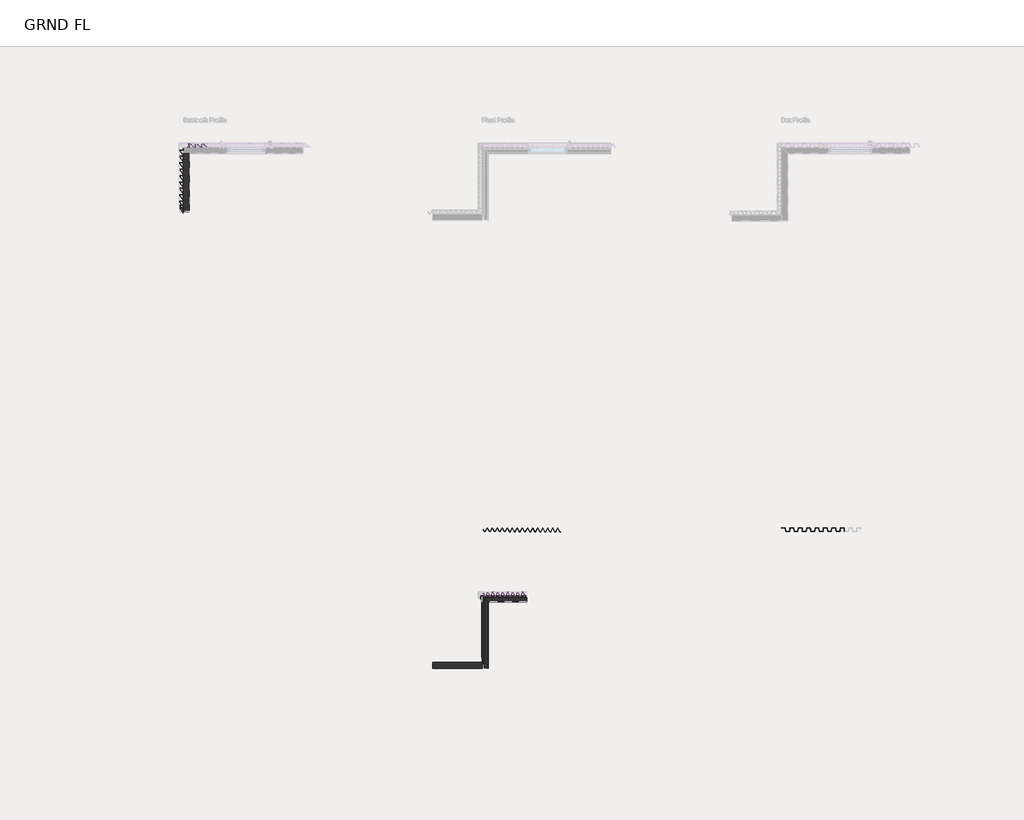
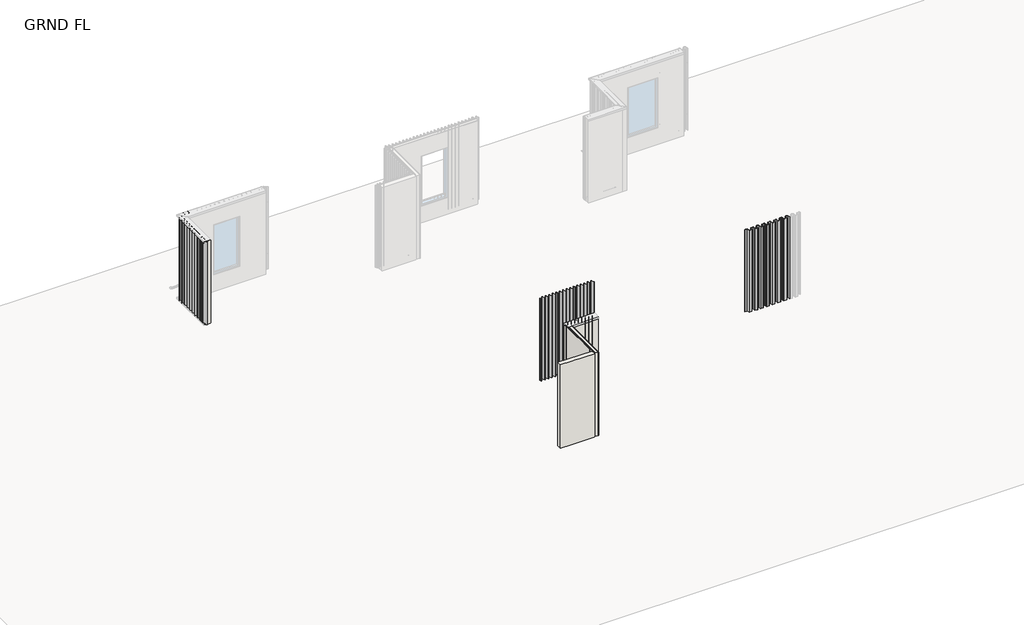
# One storey, part 1 of 13: 72 members, 6 walls.
"""IFC4 building model written with IfcOpenShell, lengths in millimetres."""

from ifc_helpers import new_model, si_unit, frame, origin, place, context, project, spatial, polyline, ellipse_curve, outline, extrude, faceted_brep, transform, mapped, element, save
from ifc_brep_helpers import plane_surface, cylinder_surface, revolved_surface, advanced_brep
from components import rectangular_mullion_1c1d068f, rectangular_mullion_76378f7f, rectangular_mullion_6d4f5b42, rectangular_mullion_4509f283, rectangular_mullion_c7de9142, rectangular_mullion_6f976a3b, rectangular_mullion_a97d78b0, rectangular_mullion_585a1eef, rectangular_mullion_b048368e, rectangular_mullion_7e84aa45, rectangular_mullion_fe7e4276, rectangular_mullion_1fecb4d4, rectangular_mullion_b818b3c7, rectangular_mullion_f458c6f7, rectangular_mullion_71329b21, rectangular_mullion_6e79b691, rectangular_mullion_508b6aa7

model = new_model("IFC4")

# Units and contexts
model_context = context("Model", 3, world=origin())
ifc_project = project(units=[si_unit("LENGTHUNIT", "METRE", prefix="MILLI")], contexts=[model_context])

# Site, building, storey
site = spatial("IfcSite", under=ifc_project)
building = spatial("IfcBuilding", under=site)
storey = spatial("IfcBuildingStorey", under=building, Name="GRND FL", Elevation=35277.5920148)

# Members
placement = place(None, origin())
rectangular_mullion_shape = rectangular_mullion_1c1d068f(model_context)
element("IfcMember", 1, ObjectType="Rectangular Mullion : CD_NINELINE_Sawtooth Start Intermediate", at=placement, inside=storey, context=model_context, shape_type="MappedRepresentation", body=[
    mapped(rectangular_mullion_shape, transform((47493.6836337, -5064.1146042, 35277.5920148), x_axis=(0.0, 1.0, 0.0), y_axis=(1.0, 0.0, 0.0), z_axis=(0.0, 0.0, -1.0))),
])
element("IfcMember", 2, ObjectType="Rectangular Mullion : CD_NINELINE_Sawtooth Start Intermediate", at=placement, inside=storey, context=model_context, shape_type="MappedRepresentation", body=[
    mapped(rectangular_mullion_shape, transform((47493.6836337, -4914.1146042, 35277.5920148), x_axis=(0.0, 1.0, 0.0), y_axis=(1.0, 0.0, 0.0), z_axis=(0.0, 0.0, -1.0))),
])
element("IfcMember", 3, ObjectType="Rectangular Mullion : CD_NINELINE_Sawtooth Start Intermediate", at=placement, inside=storey, context=model_context, shape_type="MappedRepresentation", body=[
    mapped(rectangular_mullion_shape, transform((47493.6836337, -4764.1146042, 35277.5920148), x_axis=(0.0, 1.0, 0.0), y_axis=(1.0, 0.0, 0.0), z_axis=(0.0, 0.0, -1.0))),
])
element("IfcMember", 4, ObjectType="Rectangular Mullion : CD_NINELINE_Sawtooth Start Intermediate", at=placement, inside=storey, context=model_context, shape_type="MappedRepresentation", body=[
    mapped(rectangular_mullion_shape, transform((47493.6836337, -4614.1146042, 35277.5920148), x_axis=(0.0, 1.0, 0.0), y_axis=(1.0, 0.0, 0.0), z_axis=(0.0, 0.0, -1.0))),
])
element("IfcMember", 5, ObjectType="Rectangular Mullion : CD_NINELINE_Sawtooth Start Intermediate", at=placement, inside=storey, context=model_context, shape_type="MappedRepresentation", body=[
    mapped(rectangular_mullion_shape, transform((47493.6836337, -4464.1146042, 35277.5920148), x_axis=(0.0, 1.0, 0.0), y_axis=(1.0, 0.0, 0.0), z_axis=(0.0, 0.0, -1.0))),
])
element("IfcMember", 6, ObjectType="Rectangular Mullion : CD_NINELINE_Sawtooth Start Intermediate", at=placement, inside=storey, context=model_context, shape_type="MappedRepresentation", body=[
    mapped(rectangular_mullion_shape, transform((47493.6836337, -4314.1146042, 35277.5920148), x_axis=(0.0, 1.0, 0.0), y_axis=(1.0, 0.0, 0.0), z_axis=(0.0, 0.0, -1.0))),
])
element("IfcMember", 7, ObjectType="Rectangular Mullion : CD_NINELINE_Sawtooth Start Intermediate", at=placement, inside=storey, context=model_context, shape_type="MappedRepresentation", body=[
    mapped(rectangular_mullion_shape, transform((47493.6836337, -4164.1146042, 35277.5920148), x_axis=(0.0, 1.0, 0.0), y_axis=(1.0, 0.0, 0.0), z_axis=(0.0, 0.0, -1.0))),
])
element("IfcMember", 8, ObjectType="Rectangular Mullion : CD_NINELINE_Sawtooth Start Intermediate", at=placement, inside=storey, context=model_context, shape_type="MappedRepresentation", body=[
    mapped(rectangular_mullion_shape, transform((47493.6836337, -4014.1146042, 35277.5920148), x_axis=(0.0, 1.0, 0.0), y_axis=(1.0, 0.0, 0.0), z_axis=(0.0, 0.0, -1.0))),
])
element("IfcMember", 9, ObjectType="Rectangular Mullion : CD_NINELINE_Sawtooth Start Intermediate", at=placement, inside=storey, context=model_context, shape_type="MappedRepresentation", body=[
    mapped(rectangular_mullion_shape, transform((47493.6836337, -3864.1146042, 35277.5920148), x_axis=(0.0, 1.0, 0.0), y_axis=(1.0, 0.0, 0.0), z_axis=(0.0, 0.0, -1.0))),
])
element("IfcMember", 10, ObjectType="Rectangular Mullion : CD_NINELINE_Sawtooth Start Intermediate", at=placement, inside=storey, context=model_context, shape_type="MappedRepresentation", body=[
    mapped(rectangular_mullion_shape, transform((47493.6836337, -5214.1146042, 35277.5920148), x_axis=(0.0, 1.0, 0.0), y_axis=(1.0, 0.0, 0.0), z_axis=(0.0, 0.0, -1.0))),
])
rectangular_mullion_2_shape = rectangular_mullion_76378f7f(model_context)
element("IfcMember", 11, ObjectType="Rectangular Mullion : CD_NINELINE_Sawtooth End", at=placement, inside=storey, context=model_context, shape_type="MappedRepresentation", body=[
    mapped(rectangular_mullion_2_shape, transform((47493.6836337, -5245.6146039, 38277.5920148), x_axis=(0.0, -1.0, 0.0), y_axis=(1.0, 0.0, 0.0), z_axis=(0.0, 0.0, 1.0))),
])
rectangular_mullion_3_shape = rectangular_mullion_6d4f5b42(model_context)
element("IfcMember", 12, ObjectType="Rectangular Mullion : CD_NINELINE_Pleat Start Intermediate", at=placement, inside=storey, context=model_context, shape_type="MappedRepresentation", body=[
    mapped(rectangular_mullion_3_shape, transform((54664.4845151, -14245.6146039, 35330.5920148), x_axis=(1.0, 0.0, 0.0), y_axis=(0.0, -1.0, 0.0), z_axis=(0.0, 0.0, -1.0))),
])
element("IfcMember", 13, ObjectType="Rectangular Mullion : CD_NINELINE_Pleat Start Intermediate", at=placement, inside=storey, context=model_context, shape_type="MappedRepresentation", body=[
    mapped(rectangular_mullion_3_shape, transform((54782.4845151, -14245.6146039, 35330.5920148), x_axis=(1.0, 0.0, 0.0), y_axis=(0.0, -1.0, 0.0), z_axis=(0.0, 0.0, -1.0))),
])
element("IfcMember", 14, ObjectType="Rectangular Mullion : CD_NINELINE_Pleat Start Intermediate", at=placement, inside=storey, context=model_context, shape_type="MappedRepresentation", body=[
    mapped(rectangular_mullion_3_shape, transform((54900.4845151, -14245.6146039, 35330.5920148), x_axis=(1.0, 0.0, 0.0), y_axis=(0.0, -1.0, 0.0), z_axis=(0.0, 0.0, -1.0))),
])
element("IfcMember", 15, ObjectType="Rectangular Mullion : CD_NINELINE_Pleat Start Intermediate", at=placement, inside=storey, context=model_context, shape_type="MappedRepresentation", body=[
    mapped(rectangular_mullion_3_shape, transform((55018.4845151, -14245.6146039, 35330.5920148), x_axis=(1.0, 0.0, 0.0), y_axis=(0.0, -1.0, 0.0), z_axis=(0.0, 0.0, -1.0))),
])
element("IfcMember", 16, ObjectType="Rectangular Mullion : CD_NINELINE_Pleat Start Intermediate", at=placement, inside=storey, context=model_context, shape_type="MappedRepresentation", body=[
    mapped(rectangular_mullion_3_shape, transform((55136.4845151, -14245.6146039, 35330.5920148), x_axis=(1.0, 0.0, 0.0), y_axis=(0.0, -1.0, 0.0), z_axis=(0.0, 0.0, -1.0))),
])
element("IfcMember", 17, ObjectType="Rectangular Mullion : CD_NINELINE_Pleat Start Intermediate", at=placement, inside=storey, context=model_context, shape_type="MappedRepresentation", body=[
    mapped(rectangular_mullion_3_shape, transform((55254.4845151, -14245.6146039, 35330.5920148), x_axis=(1.0, 0.0, 0.0), y_axis=(0.0, -1.0, 0.0), z_axis=(0.0, 0.0, -1.0))),
])
element("IfcMember", 18, ObjectType="Rectangular Mullion : CD_NINELINE_Pleat Start Intermediate", at=placement, inside=storey, context=model_context, shape_type="MappedRepresentation", body=[
    mapped(rectangular_mullion_3_shape, transform((55372.4845151, -14245.6146039, 35330.5920148), x_axis=(1.0, 0.0, 0.0), y_axis=(0.0, -1.0, 0.0), z_axis=(0.0, 0.0, -1.0))),
])
rectangular_mullion_4_shape = rectangular_mullion_4509f283(model_context)
element("IfcMember", 19, ObjectType="Rectangular Mullion : CD_NINELINE_Pleat Start", at=placement, inside=storey, context=model_context, shape_type="MappedRepresentation", body=[
    mapped(rectangular_mullion_4_shape, transform((54518.8962254, -14245.6146039, 35877.5920148), x_axis=(-1.0, 0.0, 0.0), y_axis=(0.0, -1.0, 0.0), z_axis=(0.0, 0.0, 1.0))),
])
rectangular_mullion_5_shape = rectangular_mullion_c7de9142(model_context)
element("IfcMember", 20, ObjectType="Rectangular Mullion : CD_NINELINE_Sawtooth Start Intermediate", at=placement, inside=storey, context=model_context, shape_type="MappedRepresentation", body=[
    mapped(rectangular_mullion_5_shape, transform((47983.9599021, -3745.6146039, 35877.5920148), x_axis=(-1.0, 0.0, 0.0), y_axis=(0.0, 1.0, 0.0), z_axis=(0.0, 0.0, -1.0))),
])
element("IfcMember", 21, ObjectType="Rectangular Mullion : CD_NINELINE_Sawtooth Start Intermediate", at=placement, inside=storey, context=model_context, shape_type="MappedRepresentation", body=[
    mapped(rectangular_mullion_5_shape, transform((47833.9599021, -3745.6146039, 35877.5920148), x_axis=(-1.0, 0.0, 0.0), y_axis=(0.0, 1.0, 0.0), z_axis=(0.0, 0.0, -1.0))),
])
element("IfcMember", 22, ObjectType="Rectangular Mullion : CD_NINELINE_Sawtooth Start Intermediate", at=placement, inside=storey, context=model_context, shape_type="MappedRepresentation", body=[
    mapped(rectangular_mullion_5_shape, transform((47683.9599021, -3745.6146039, 35877.5920148), x_axis=(-1.0, 0.0, 0.0), y_axis=(0.0, 1.0, 0.0), z_axis=(0.0, 0.0, -1.0))),
])
rectangular_mullion_6_shape = rectangular_mullion_6f976a3b(model_context)
element("IfcMember", 23, ObjectType="Rectangular Mullion : CD_NINELINE_Sawtooth Start Intermediate", at=placement, inside=storey, context=model_context, shape_type="MappedRepresentation", body=[
    mapped(rectangular_mullion_6_shape, transform((47983.9599021, -3745.6146039, 35330.5920148), x_axis=(-1.0, 0.0, 0.0), y_axis=(0.0, 1.0, 0.0), z_axis=(0.0, 0.0, -1.0))),
])
element("IfcMember", 24, ObjectType="Rectangular Mullion : CD_NINELINE_Sawtooth Start Intermediate", at=placement, inside=storey, context=model_context, shape_type="MappedRepresentation", body=[
    mapped(rectangular_mullion_6_shape, transform((47833.9599021, -3745.6146039, 35330.5920148), x_axis=(-1.0, 0.0, 0.0), y_axis=(0.0, 1.0, 0.0), z_axis=(0.0, 0.0, -1.0))),
])
element("IfcMember", 25, ObjectType="Rectangular Mullion : CD_NINELINE_Sawtooth Start Intermediate", at=placement, inside=storey, context=model_context, shape_type="MappedRepresentation", body=[
    mapped(rectangular_mullion_6_shape, transform((47683.9599021, -3745.6146039, 35330.5920148), x_axis=(-1.0, 0.0, 0.0), y_axis=(0.0, 1.0, 0.0), z_axis=(0.0, 0.0, -1.0))),
])
rectangular_mullion_7_shape = rectangular_mullion_a97d78b0(model_context)
element("IfcMember", 26, ObjectType="Rectangular Mullion : CD_NINELINE_Sawtooth Start Intermediate", at=placement, inside=storey, context=model_context, shape_type="MappedRepresentation", body=[
    mapped(rectangular_mullion_7_shape, transform((47983.9599021, -3745.6146039, 37729.5920148), x_axis=(-1.0, 0.0, 0.0), y_axis=(0.0, 1.0, 0.0), z_axis=(0.0, 0.0, -1.0))),
])
element("IfcMember", 27, ObjectType="Rectangular Mullion : CD_NINELINE_Sawtooth Start Intermediate", at=placement, inside=storey, context=model_context, shape_type="MappedRepresentation", body=[
    mapped(rectangular_mullion_7_shape, transform((47833.9599021, -3745.6146039, 37729.5920148), x_axis=(-1.0, 0.0, 0.0), y_axis=(0.0, 1.0, 0.0), z_axis=(0.0, 0.0, -1.0))),
])
element("IfcMember", 28, ObjectType="Rectangular Mullion : CD_NINELINE_Sawtooth Start Intermediate", at=placement, inside=storey, context=model_context, shape_type="MappedRepresentation", body=[
    mapped(rectangular_mullion_7_shape, transform((47683.9599021, -3745.6146039, 37729.5920148), x_axis=(-1.0, 0.0, 0.0), y_axis=(0.0, 1.0, 0.0), z_axis=(0.0, 0.0, -1.0))),
])
rectangular_mullion_8_shape = rectangular_mullion_585a1eef(model_context)
element("IfcMember", 29, ObjectType="Rectangular Mullion : CD_NINELINE_Pleat Start Intermediate", at=placement, inside=storey, context=model_context, shape_type="MappedRepresentation", body=[
    mapped(rectangular_mullion_8_shape, transform((54535.9038687, -12745.6146039, 35330.5920148), x_axis=(1.0, 0.0, 0.0), y_axis=(0.0, -1.0, 0.0), z_axis=(0.0, 0.0, -1.0))),
])
element("IfcMember", 30, ObjectType="Rectangular Mullion : CD_NINELINE_Pleat Start Intermediate", at=placement, inside=storey, context=model_context, shape_type="MappedRepresentation", body=[
    mapped(rectangular_mullion_8_shape, transform((54653.9038687, -12745.6146039, 35330.5920148), x_axis=(1.0, 0.0, 0.0), y_axis=(0.0, -1.0, 0.0), z_axis=(0.0, 0.0, -1.0))),
])
element("IfcMember", 31, ObjectType="Rectangular Mullion : CD_NINELINE_Pleat Start Intermediate", at=placement, inside=storey, context=model_context, shape_type="MappedRepresentation", body=[
    mapped(rectangular_mullion_8_shape, transform((54771.9038687, -12745.6146039, 35330.5920148), x_axis=(1.0, 0.0, 0.0), y_axis=(0.0, -1.0, 0.0), z_axis=(0.0, 0.0, -1.0))),
])
element("IfcMember", 32, ObjectType="Rectangular Mullion : CD_NINELINE_Pleat Start Intermediate", at=placement, inside=storey, context=model_context, shape_type="MappedRepresentation", body=[
    mapped(rectangular_mullion_8_shape, transform((54889.9038687, -12745.6146039, 35330.5920148), x_axis=(1.0, 0.0, 0.0), y_axis=(0.0, -1.0, 0.0), z_axis=(0.0, 0.0, -1.0))),
])
element("IfcMember", 33, ObjectType="Rectangular Mullion : CD_NINELINE_Pleat Start Intermediate", at=placement, inside=storey, context=model_context, shape_type="MappedRepresentation", body=[
    mapped(rectangular_mullion_8_shape, transform((55125.9038687, -12747.1146039, 35330.5920148), x_axis=(1.0, 0.0, 0.0), y_axis=(0.0, -1.0, 0.0), z_axis=(0.0, 0.0, -1.0))),
])
element("IfcMember", 34, ObjectType="Rectangular Mullion : CD_NINELINE_Pleat Start Intermediate", at=placement, inside=storey, context=model_context, shape_type="MappedRepresentation", body=[
    mapped(rectangular_mullion_8_shape, transform((55243.9038687, -12747.1146039, 35330.5920148), x_axis=(1.0, 0.0, 0.0), y_axis=(0.0, -1.0, 0.0), z_axis=(0.0, 0.0, -1.0))),
])
element("IfcMember", 35, ObjectType="Rectangular Mullion : CD_NINELINE_Pleat Start Intermediate", at=placement, inside=storey, context=model_context, shape_type="MappedRepresentation", body=[
    mapped(rectangular_mullion_8_shape, transform((55361.9038687, -12747.1146039, 35330.5920148), x_axis=(1.0, 0.0, 0.0), y_axis=(0.0, -1.0, 0.0), z_axis=(0.0, 0.0, -1.0))),
])
element("IfcMember", 36, ObjectType="Rectangular Mullion : CD_NINELINE_Pleat Start Intermediate", at=placement, inside=storey, context=model_context, shape_type="MappedRepresentation", body=[
    mapped(rectangular_mullion_8_shape, transform((55479.9038687, -12747.1146039, 35330.5920148), x_axis=(1.0, 0.0, 0.0), y_axis=(0.0, -1.0, 0.0), z_axis=(0.0, 0.0, -1.0))),
])
element("IfcMember", 37, ObjectType="Rectangular Mullion : CD_NINELINE_Pleat Start Intermediate", at=placement, inside=storey, context=model_context, shape_type="MappedRepresentation", body=[
    mapped(rectangular_mullion_8_shape, transform((55715.9038687, -12748.5833539, 35330.5920148), x_axis=(1.0, 0.0, 0.0), y_axis=(0.0, -1.0, 0.0), z_axis=(0.0, 0.0, -1.0))),
])
element("IfcMember", 38, ObjectType="Rectangular Mullion : CD_NINELINE_Pleat Start Intermediate", at=placement, inside=storey, context=model_context, shape_type="MappedRepresentation", body=[
    mapped(rectangular_mullion_8_shape, transform((55833.9038687, -12748.5833539, 35330.5920148), x_axis=(1.0, 0.0, 0.0), y_axis=(0.0, -1.0, 0.0), z_axis=(0.0, 0.0, -1.0))),
])
element("IfcMember", 39, ObjectType="Rectangular Mullion : CD_NINELINE_Pleat Start Intermediate", at=placement, inside=storey, context=model_context, shape_type="MappedRepresentation", body=[
    mapped(rectangular_mullion_8_shape, transform((55951.9038687, -12748.5833539, 35330.5920148), x_axis=(1.0, 0.0, 0.0), y_axis=(0.0, -1.0, 0.0), z_axis=(0.0, 0.0, -1.0))),
])
element("IfcMember", 40, ObjectType="Rectangular Mullion : CD_NINELINE_Pleat Start Intermediate", at=placement, inside=storey, context=model_context, shape_type="MappedRepresentation", body=[
    mapped(rectangular_mullion_8_shape, transform((56069.9038687, -12748.5833539, 35330.5920148), x_axis=(1.0, 0.0, 0.0), y_axis=(0.0, -1.0, 0.0), z_axis=(0.0, 0.0, -1.0))),
])
rectangular_mullion_9_shape = rectangular_mullion_b048368e(model_context)
element("IfcMember", 41, ObjectType="Rectangular Mullion : CD_NINELINE_Pleat Start", at=placement, inside=storey, context=model_context, shape_type="MappedRepresentation", body=[
    mapped(rectangular_mullion_9_shape, transform((54508.1857869, -12745.6146039, 38277.5920148), x_axis=(-1.0, 0.0, 0.0), y_axis=(0.0, -1.0, 0.0), z_axis=(0.0, 0.0, 1.0))),
])
element("IfcMember", 42, ObjectType="Rectangular Mullion : CD_NINELINE_Pleat Start", at=placement, inside=storey, context=model_context, shape_type="MappedRepresentation", body=[
    mapped(rectangular_mullion_9_shape, transform((55098.1857869, -12747.1146039, 38277.5920148), x_axis=(-1.0, 0.0, 0.0), y_axis=(0.0, -1.0, 0.0), z_axis=(0.0, 0.0, 1.0))),
])
element("IfcMember", 43, ObjectType="Rectangular Mullion : CD_NINELINE_Pleat Start", at=placement, inside=storey, context=model_context, shape_type="MappedRepresentation", body=[
    mapped(rectangular_mullion_9_shape, transform((55688.1857869, -12748.5833539, 38277.5920148), x_axis=(-1.0, 0.0, 0.0), y_axis=(0.0, -1.0, 0.0), z_axis=(0.0, 0.0, 1.0))),
])
rectangular_mullion_10_shape = rectangular_mullion_7e84aa45(model_context)
element("IfcMember", 44, ObjectType="Rectangular Mullion : CD_NINELINE_Pleat Start Intermediate", at=placement, inside=storey, context=model_context, shape_type="MappedRepresentation", body=[
    mapped(rectangular_mullion_10_shape, transform((54664.4845151, -14245.6146039, 35877.5920148), x_axis=(1.0, 0.0, 0.0), y_axis=(0.0, -1.0, 0.0), z_axis=(0.0, 0.0, -1.0))),
])
element("IfcMember", 45, ObjectType="Rectangular Mullion : CD_NINELINE_Pleat Start Intermediate", at=placement, inside=storey, context=model_context, shape_type="MappedRepresentation", body=[
    mapped(rectangular_mullion_10_shape, transform((54782.4845151, -14245.6146039, 35877.5920148), x_axis=(1.0, 0.0, 0.0), y_axis=(0.0, -1.0, 0.0), z_axis=(0.0, 0.0, -1.0))),
])
element("IfcMember", 46, ObjectType="Rectangular Mullion : CD_NINELINE_Pleat Start Intermediate", at=placement, inside=storey, context=model_context, shape_type="MappedRepresentation", body=[
    mapped(rectangular_mullion_10_shape, transform((54900.4845151, -14245.6146039, 35877.5920148), x_axis=(1.0, 0.0, 0.0), y_axis=(0.0, -1.0, 0.0), z_axis=(0.0, 0.0, -1.0))),
])
element("IfcMember", 47, ObjectType="Rectangular Mullion : CD_NINELINE_Pleat Start Intermediate", at=placement, inside=storey, context=model_context, shape_type="MappedRepresentation", body=[
    mapped(rectangular_mullion_10_shape, transform((55018.4845151, -14245.6146039, 35877.5920148), x_axis=(1.0, 0.0, 0.0), y_axis=(0.0, -1.0, 0.0), z_axis=(0.0, 0.0, -1.0))),
])
element("IfcMember", 48, ObjectType="Rectangular Mullion : CD_NINELINE_Pleat Start Intermediate", at=placement, inside=storey, context=model_context, shape_type="MappedRepresentation", body=[
    mapped(rectangular_mullion_10_shape, transform((55136.4845151, -14245.6146039, 35877.5920148), x_axis=(1.0, 0.0, 0.0), y_axis=(0.0, -1.0, 0.0), z_axis=(0.0, 0.0, -1.0))),
])
element("IfcMember", 49, ObjectType="Rectangular Mullion : CD_NINELINE_Pleat Start Intermediate", at=placement, inside=storey, context=model_context, shape_type="MappedRepresentation", body=[
    mapped(rectangular_mullion_10_shape, transform((55254.4845151, -14245.6146039, 35877.5920148), x_axis=(1.0, 0.0, 0.0), y_axis=(0.0, -1.0, 0.0), z_axis=(0.0, 0.0, -1.0))),
])
element("IfcMember", 50, ObjectType="Rectangular Mullion : CD_NINELINE_Pleat Start Intermediate", at=placement, inside=storey, context=model_context, shape_type="MappedRepresentation", body=[
    mapped(rectangular_mullion_10_shape, transform((55372.4845151, -14245.6146039, 35877.5920148), x_axis=(1.0, 0.0, 0.0), y_axis=(0.0, -1.0, 0.0), z_axis=(0.0, 0.0, -1.0))),
])
rectangular_mullion_11_shape = rectangular_mullion_fe7e4276(model_context)
element("IfcMember", 51, ObjectType="Rectangular Mullion : CD_NINELINE_Pleat Start Intermediate", at=placement, inside=storey, context=model_context, shape_type="MappedRepresentation", body=[
    mapped(rectangular_mullion_11_shape, transform((54664.4845151, -14245.6146039, 37690.5295148), x_axis=(1.0, 0.0, 0.0), y_axis=(0.0, -1.0, 0.0), z_axis=(0.0, 0.0, -1.0))),
])
element("IfcMember", 52, ObjectType="Rectangular Mullion : CD_NINELINE_Pleat Start Intermediate", at=placement, inside=storey, context=model_context, shape_type="MappedRepresentation", body=[
    mapped(rectangular_mullion_11_shape, transform((54782.4845151, -14245.6146039, 37690.5295148), x_axis=(1.0, 0.0, 0.0), y_axis=(0.0, -1.0, 0.0), z_axis=(0.0, 0.0, -1.0))),
])
element("IfcMember", 53, ObjectType="Rectangular Mullion : CD_NINELINE_Pleat Start Intermediate", at=placement, inside=storey, context=model_context, shape_type="MappedRepresentation", body=[
    mapped(rectangular_mullion_11_shape, transform((54900.4845151, -14245.6146039, 37690.5295148), x_axis=(1.0, 0.0, 0.0), y_axis=(0.0, -1.0, 0.0), z_axis=(0.0, 0.0, -1.0))),
])
element("IfcMember", 54, ObjectType="Rectangular Mullion : CD_NINELINE_Pleat Start Intermediate", at=placement, inside=storey, context=model_context, shape_type="MappedRepresentation", body=[
    mapped(rectangular_mullion_11_shape, transform((55018.4845151, -14245.6146039, 37690.5295148), x_axis=(1.0, 0.0, 0.0), y_axis=(0.0, -1.0, 0.0), z_axis=(0.0, 0.0, -1.0))),
])
element("IfcMember", 55, ObjectType="Rectangular Mullion : CD_NINELINE_Pleat Start Intermediate", at=placement, inside=storey, context=model_context, shape_type="MappedRepresentation", body=[
    mapped(rectangular_mullion_11_shape, transform((55136.4845151, -14245.6146039, 37690.5295148), x_axis=(1.0, 0.0, 0.0), y_axis=(0.0, -1.0, 0.0), z_axis=(0.0, 0.0, -1.0))),
])
element("IfcMember", 56, ObjectType="Rectangular Mullion : CD_NINELINE_Pleat Start Intermediate", at=placement, inside=storey, context=model_context, shape_type="MappedRepresentation", body=[
    mapped(rectangular_mullion_11_shape, transform((55254.4845151, -14245.6146039, 37690.5295148), x_axis=(1.0, 0.0, 0.0), y_axis=(0.0, -1.0, 0.0), z_axis=(0.0, 0.0, -1.0))),
])
element("IfcMember", 57, ObjectType="Rectangular Mullion : CD_NINELINE_Pleat Start Intermediate", at=placement, inside=storey, context=model_context, shape_type="MappedRepresentation", body=[
    mapped(rectangular_mullion_11_shape, transform((55372.4845151, -14245.6146039, 37690.5295148), x_axis=(1.0, 0.0, 0.0), y_axis=(0.0, -1.0, 0.0), z_axis=(0.0, 0.0, -1.0))),
])
rectangular_mullion_12_shape = rectangular_mullion_1fecb4d4(model_context)
element("IfcMember", 58, ObjectType="Rectangular Mullion : CD_NINELINE_Pleat Start", at=placement, inside=storey, context=model_context, shape_type="MappedRepresentation", body=[
    mapped(rectangular_mullion_12_shape, transform((54518.8962254, -14245.6146039, 38272.5920148), x_axis=(-1.0, 0.0, 0.0), y_axis=(0.0, -1.0, 0.0), z_axis=(0.0, 0.0, 1.0))),
])
rectangular_mullion_13_shape = rectangular_mullion_b818b3c7(model_context)
element("IfcMember", 59, ObjectType="Rectangular Mullion : CD_NINELINE_Pleat Start", at=placement, inside=storey, context=model_context, shape_type="MappedRepresentation", body=[
    mapped(rectangular_mullion_13_shape, transform((54518.8962254, -14245.6146039, 37690.5295148), x_axis=(-1.0, 0.0, 0.0), y_axis=(0.0, -1.0, 0.0), z_axis=(0.0, 0.0, 1.0))),
])
rectangular_mullion_14_shape = rectangular_mullion_f458c6f7(model_context)
element("IfcMember", 60, ObjectType="Rectangular Mullion : CD_NINELINE_Box Intermediate", at=placement, inside=storey, context=model_context, shape_type="MappedRepresentation", body=[
    mapped(rectangular_mullion_14_shape, transform((61596.140799, -12745.6146039, 35330.5920148), x_axis=(1.0, 0.0, 0.0), y_axis=(0.0, -1.0, 0.0), z_axis=(0.0, 0.0, -1.0))),
])
element("IfcMember", 61, ObjectType="Rectangular Mullion : CD_NINELINE_Box Intermediate", at=placement, inside=storey, context=model_context, shape_type="MappedRepresentation", body=[
    mapped(rectangular_mullion_14_shape, transform((61790.140799, -12745.6146039, 35330.5920148), x_axis=(1.0, 0.0, 0.0), y_axis=(0.0, -1.0, 0.0), z_axis=(0.0, 0.0, -1.0))),
])
element("IfcMember", 62, ObjectType="Rectangular Mullion : CD_NINELINE_Box Intermediate", at=placement, inside=storey, context=model_context, shape_type="MappedRepresentation", body=[
    mapped(rectangular_mullion_14_shape, transform((62185.105605, -12745.6146039, 35330.5920148), x_axis=(1.0, 0.0, 0.0), y_axis=(0.0, -1.0, 0.0), z_axis=(0.0, 0.0, -1.0))),
])
element("IfcMember", 63, ObjectType="Rectangular Mullion : CD_NINELINE_Box Intermediate", at=placement, inside=storey, context=model_context, shape_type="MappedRepresentation", body=[
    mapped(rectangular_mullion_14_shape, transform((62379.105605, -12745.6146039, 35330.5920148), x_axis=(1.0, 0.0, 0.0), y_axis=(0.0, -1.0, 0.0), z_axis=(0.0, 0.0, -1.0))),
])
element("IfcMember", 64, ObjectType="Rectangular Mullion : CD_NINELINE_Box Intermediate", at=placement, inside=storey, context=model_context, shape_type="MappedRepresentation", body=[
    mapped(rectangular_mullion_14_shape, transform((62774.105605, -12745.6146039, 35330.5920148), x_axis=(1.0, 0.0, 0.0), y_axis=(0.0, -1.0, 0.0), z_axis=(0.0, 0.0, -1.0))),
])
rectangular_mullion_15_shape = rectangular_mullion_71329b21(model_context)
element("IfcMember", 65, ObjectType="Rectangular Mullion : CD_NINELINE_Box Start", at=placement, inside=storey, context=model_context, shape_type="MappedRepresentation", body=[
    mapped(rectangular_mullion_15_shape, transform((61493.7188276, -12745.6146039, 38272.5920148), x_axis=(-1.0, 0.0, 0.0), y_axis=(0.0, -1.0, 0.0), z_axis=(0.0, 0.0, 1.0))),
])
element("IfcMember", 66, ObjectType="Rectangular Mullion : CD_NINELINE_Box Start", at=placement, inside=storey, context=model_context, shape_type="MappedRepresentation", body=[
    mapped(rectangular_mullion_15_shape, transform((62082.6836337, -12745.6146039, 38272.5920148), x_axis=(-1.0, 0.0, 0.0), y_axis=(0.0, -1.0, 0.0), z_axis=(0.0, 0.0, 1.0))),
])
element("IfcMember", 67, ObjectType="Rectangular Mullion : CD_NINELINE_Box Start", at=placement, inside=storey, context=model_context, shape_type="MappedRepresentation", body=[
    mapped(rectangular_mullion_15_shape, transform((62671.6836337, -12745.6146039, 38272.5920148), x_axis=(-1.0, 0.0, 0.0), y_axis=(0.0, -1.0, 0.0), z_axis=(0.0, 0.0, 1.0))),
])
rectangular_mullion_16_shape = rectangular_mullion_6e79b691(model_context)
element("IfcMember", 68, ObjectType="Rectangular Mullion : CD_NINELINE_Box End", at=placement, inside=storey, context=model_context, shape_type="MappedRepresentation", body=[
    mapped(rectangular_mullion_16_shape, transform((62175.2188276, -12745.6146039, 35330.5920148), x_axis=(1.0, 0.0, 0.0), y_axis=(0.0, -1.0, 0.0), z_axis=(0.0, 0.0, -1.0))),
])
element("IfcMember", 69, ObjectType="Rectangular Mullion : CD_NINELINE_Box End", at=placement, inside=storey, context=model_context, shape_type="MappedRepresentation", body=[
    mapped(rectangular_mullion_16_shape, transform((62764.1836337, -12745.6146039, 35330.5920148), x_axis=(1.0, 0.0, 0.0), y_axis=(0.0, -1.0, 0.0), z_axis=(0.0, 0.0, -1.0))),
])
rectangular_mullion_17_shape = rectangular_mullion_508b6aa7(model_context)
element("IfcMember", 70, ObjectType="Rectangular Mullion : CD_NINELINE_Pleat End", at=placement, inside=storey, context=model_context, shape_type="MappedRepresentation", body=[
    mapped(rectangular_mullion_17_shape, transform((55147.1857869, -12745.6146039, 35330.5920148), x_axis=(1.0, 0.0, 0.0), y_axis=(0.0, -1.0, 0.0), z_axis=(0.0, 0.0, -1.0))),
])
element("IfcMember", 71, ObjectType="Rectangular Mullion : CD_NINELINE_Pleat End", at=placement, inside=storey, context=model_context, shape_type="MappedRepresentation", body=[
    mapped(rectangular_mullion_17_shape, transform((55737.1857869, -12747.1146039, 35330.5920148), x_axis=(1.0, 0.0, 0.0), y_axis=(0.0, -1.0, 0.0), z_axis=(0.0, 0.0, -1.0))),
])
element("IfcMember", 72, ObjectType="Rectangular Mullion : CD_NINELINE_Pleat End", at=placement, inside=storey, context=model_context, shape_type="MappedRepresentation", body=[
    mapped(rectangular_mullion_17_shape, transform((56327.1857869, -12748.5833539, 35330.5920148), x_axis=(1.0, 0.0, 0.0), y_axis=(0.0, -1.0, 0.0), z_axis=(0.0, 0.0, -1.0))),
])

# Walls
element("IfcWall", 73, ObjectType="EXT METAL SF- Top Hat 35, Steel Frame 90, Plasterboard 13", at=placement, inside=storey, context=model_context, shape_type="Brep", body=[
    faceted_brep([(47493.6836337, -3887.6146039, 35277.5920148), (47493.6836337, -5245.6146039, 35277.5920148), (47493.6836337, -5245.6146039, 35328.1811873), (47493.6836337, -3887.6146039, 35328.1811873), (47493.6836337, -5245.6146039, 38277.5920148), (47493.6836337, -3887.6146039, 38277.5920148), (47493.6836337, -3887.6146039, 35407.5920148), (47493.6836337, -5245.6146039, 35407.5920148), (47635.6836337, -5245.6146039, 35277.5920148), (47635.6836337, -3887.6146039, 35277.5920148), (47635.6836337, -3887.6146039, 38277.5920148), (47635.6836337, -5245.6146039, 38277.5920148), (47630.8871105, -5245.6146039, 38277.5920148), (47494.6836337, -5245.6146039, 35407.5920148), (47494.6836337, -5245.6146039, 35328.1986423), (47630.8871105, -3887.6146039, 38277.5920148), (47494.6836337, -3887.6146039, 35328.1986423), (47494.6836337, -3887.6146039, 35407.5920148)], [[[0, 1, 2, 3]], [[4, 5, 6, 7]], [[8, 9, 10, 11]], [[1, 0, 9, 8]], [[8, 11, 12, 4, 7, 13, 14, 2, 1]], [[5, 4, 12, 11, 10, 15]], [[10, 9, 0, 3, 16, 17, 6, 5, 15]], [[17, 13, 7, 6]], [[13, 17, 16, 14]], [[14, 16, 3, 2]]]),
])
element("IfcWall", 74, ObjectType="EXT METAL SF- Top Hat 35, Steel Frame 90, Plasterboard 13", at=placement, inside=storey, context=model_context, shape_type="SolidModel", body=[
    extrude(outline(polyline([(54530.6836337, -14282.6146039), (54528.6836337, -14280.6146039), (55529.6836337, -14280.6146039), (55529.6836337, -14282.6146039), (54530.6836337, -14282.6146039)])), frame((0.0, 0.0, 35277.5920148), z_axis=(0.0, 0.0, 1.0), x_axis=(1.0, 0.0, 0.0)), (0.0, 0.0, 1.0), 3000.0),
    faceted_brep([(55529.6836337, -14387.6146039, 35277.5920148), (54635.6836337, -14387.6146039, 35277.5920148), (54622.6836337, -14374.6146039, 35277.5920148), (55529.6836337, -14374.6146039, 35277.5920148), (55529.6836337, -14387.6146039, 38277.5920148), (55529.6836337, -14374.6146039, 38277.5920148), (55529.6836337, -14382.8180808, 38277.5920148), (54635.6836337, -14387.6146039, 38277.5920148), (54622.6836337, -14374.6146039, 38277.5920148), (54630.8871105, -14382.8180808, 38277.5920148)], [[[0, 1, 2, 3]], [[4, 0, 3, 5, 6]], [[7, 4, 6, 5, 8, 9]], [[1, 7, 9, 8, 2]], [[3, 2, 8, 5]], [[1, 0, 4, 7]]]),
    extrude(outline(polyline([(54622.6836337, -14374.6146039), (54530.6836337, -14282.6146039), (55529.6836337, -14282.6146039), (55529.6836337, -14374.6146039), (54622.6836337, -14374.6146039)])), frame((0.0, 0.0, 35277.5920148), z_axis=(0.0, 0.0, 1.0), x_axis=(1.0, 0.0, 0.0)), (0.0, 0.0, 1.0), 3000.0),
    faceted_brep([(54528.6836337, -14280.6146039, 35277.5920148), (55529.6836337, -14280.6146039, 35277.5920148), (55529.6836337, -14280.6146039, 38277.5920148), (54528.6836337, -14280.6146039, 38277.5920148), (55529.6836337, -14245.6146039, 35277.5920148), (54493.6836337, -14245.6146039, 35277.5920148), (54493.6836337, -14245.6146039, 35328.1811873), (55529.6836337, -14245.6146039, 35328.1811873), (55529.6836337, -14246.6146039, 35328.1986423), (55529.6836337, -14246.6146039, 35407.5920148), (55529.6836337, -14245.6146039, 35407.5920148), (55529.6836337, -14245.6146039, 38277.5920148), (54493.6836337, -14245.6146039, 38277.5920148), (54493.6836337, -14245.6146039, 35407.5920148), (54494.6836337, -14246.6146039, 35407.5920148), (54494.6836337, -14246.6146039, 35328.1986423)], [[[0, 1, 2, 3]], [[4, 5, 6, 7]], [[5, 4, 1, 0]], [[4, 7, 8, 9, 10, 11, 2, 1]], [[11, 12, 3, 2]], [[6, 5, 0, 3, 12, 13, 14, 15]], [[7, 6, 15, 8]], [[9, 8, 15, 14]], [[13, 10, 9, 14]], [[12, 11, 10, 13]]]),
])
element("IfcWall", 75, ObjectType="EXT METAL SF- Top Hat 35, Steel Frame 90, Plasterboard 13", at=placement, inside=storey, context=model_context, shape_type="SolidModel", body=[
    extrude(outline(polyline([(54530.6836337, -14282.6146039), (54530.6836337, -15842.8489789), (54528.6836337, -15842.8489789), (54528.6836337, -14280.6146039), (54530.6836337, -14282.6146039)])), frame((0.0, 0.0, 35277.5920148), z_axis=(0.0, 0.0, 1.0), x_axis=(1.0, 0.0, 0.0)), (0.0, 0.0, 1.0), 3000.0),
    faceted_brep([(54635.6836337, -14389.6146039, 38277.5920148), (54635.6836337, -14387.6146039, 38277.5920148), (54630.8871105, -14382.8180808, 38277.5920148), (54622.6836337, -14374.6146039, 38277.5920148), (54622.6836337, -15947.8489789, 38277.5920148), (54635.6836337, -15947.8489789, 38277.5920148), (54635.6836337, -14390.6146039, 38277.5920148), (54635.6836337, -14387.6146039, 35277.5920148), (54622.6836337, -14374.6146039, 35277.5920148), (54635.6836337, -15947.8489789, 35277.5920148), (54622.6836337, -15947.8489789, 35277.5920148)], [[[0, 1, 2, 3, 4, 5, 6]], [[1, 7, 8, 3, 2]], [[9, 5, 4, 10]], [[8, 10, 4, 3]], [[7, 1, 0, 6, 5, 9]], [[10, 8, 7, 9]]]),
    extrude(outline(polyline([(54530.6836337, -15934.8489789), (54530.6836337, -14282.6146039), (54622.6836337, -14374.6146039), (54622.6836337, -15934.8489789), (54530.6836337, -15934.8489789)])), frame((0.0, 0.0, 35277.5920148), z_axis=(0.0, 0.0, 1.0), x_axis=(1.0, 0.0, 0.0)), (0.0, 0.0, 1.0), 3000.0),
    advanced_brep(
    [(54528.6836337, -15840.8489789, 35277.5920148), (54528.6836337, -14280.6146039, 35277.5920148), (54528.6836337, -14280.6146039, 38277.5920148), (54528.6836337, -15840.8489789, 38277.5920148), (54493.6836337, -14252.3466547, 35277.5920148), (54493.6836337, -14272.7590692, 35295.2696843), (54493.6836337, -14273.5755658, 35294.5625775), (54493.6836337, -14255.1343484, 35278.5920148), (54493.6836337, -14356.2697032, 35278.5920148), (54493.6836337, -14358.5791042, 35280.5920148), (54493.6836337, -14358.5791042, 35324.5924717), (54493.6836337, -14356.3100078, 35326.5921671), (54493.6836337, -14251.1919542, 35328.1811873), (54493.6836337, -14245.6146039, 35328.1811873), (54493.6836337, -14245.6146039, 35277.5920148), (54493.6836337, -15805.8489789, 38277.5920148), (54493.6836337, -15840.8489789, 38277.5920148), (54493.6836337, -14245.6146039, 38277.5920148), (54493.6836337, -14382.8180808, 38277.5920148), (54493.6836337, -14389.6146039, 38277.5920148), (54493.6836337, -14390.6146039, 38277.5920148), (54494.6836337, -14246.6146039, 35328.1986423), (54494.6836337, -14246.6146039, 35407.5920148), (54493.6836337, -14245.6146039, 35407.5920148), (54493.6836337, -14251.1919542, 35407.5920148), (54494.6836337, -14251.7693044, 35407.5920148), (54494.6836337, -14250.6146039, 35328.1986423), (54494.6836337, -14356.887358, 35326.5921671), (54494.6836337, -14359.1564545, 35324.5924717), (54494.6836337, -14359.1564545, 35280.5920148), (54494.6836337, -14356.8470534, 35278.5920148), (54494.6836337, -14255.7116987, 35278.5920148), (54494.6836337, -14274.1529161, 35294.5625775), (54494.6836337, -14273.3364195, 35295.2696843), (54494.6836337, -14252.924005, 35277.5920148), (54494.6836337, -14356.8470534, 35277.5920148), (54494.6836337, -14360.3111551, 35280.5920148), (54494.6836337, -14360.3111551, 35324.5924717), (54494.6836337, -14356.9075104, 35327.5920148), (54494.6836337, -14251.7693044, 35329.1813396), (54493.6836337, -14251.1919542, 35329.1813396), (54493.6836337, -14356.3301601, 35327.5920148), (54493.6836337, -14359.7338048, 35324.5924717), (54493.6836337, -14359.7338048, 35280.5920148), (54493.6836337, -14356.2697032, 35277.5920148), (54493.6836337, -15805.8489789, 35277.5920148), (54493.6836337, -15840.8489789, 35277.5920148)],
    [
        (0, 1),
        (1, 2),
        (2, 3),
        (3, 0),
        (4, 5),
        (5, 6),
        (6, 7),
        (7, 8),
        (8, 9, ellipse_curve(frame((54493.6836337, -14356.2697032, 35280.5920148), z_axis=(-1.0, 0.0, 0.0), x_axis=(0.0, -1.0, 0.0)), 2.3094011, 2.0)),
        (9, 10),
        (10, 11, ellipse_curve(frame((54493.6836337, -14356.2697032, 35324.5924717), z_axis=(-1.0, 0.0, 0.0), x_axis=(0.0, -1.0, 0.0)), 2.3094011, 2.0)),
        (11, 12),
        (12, 13),
        (13, 14),
        (14, 4),
        (15, 16),
        (16, 3),
        (2, 17),
        (17, 18),
        (18, 19),
        (19, 20),
        (20, 15),
        (13, 21),
        (21, 22),
        (22, 23),
        (23, 17),
        (1, 14),
        (24, 23),
        (22, 25),
        (25, 24),
        (21, 26),
        (26, 27),
        (27, 28, ellipse_curve(frame((54494.6836337, -14356.8470534, 35324.5924717), z_axis=(1.0, 0.0, 0.0), x_axis=(0.0, -1.0, 0.0)), 2.3094011, 2.0)),
        (28, 29),
        (29, 30, ellipse_curve(frame((54494.6836337, -14356.8470534, 35280.5920148), z_axis=(1.0, 0.0, 0.0), x_axis=(0.0, -1.0, 0.0)), 2.3094011, 2.0)),
        (30, 31),
        (31, 32),
        (32, 33),
        (33, 34),
        (34, 35),
        (35, 36, ellipse_curve(frame((54494.6836337, -14356.8470534, 35280.5920148), z_axis=(-1.0, 0.0, 0.0), x_axis=(0.0, 1.0, 0.0)), 3.4641016, 3.0)),
        (36, 37),
        (37, 38, ellipse_curve(frame((54494.6836337, -14356.8470534, 35324.5924717), z_axis=(-1.0, 0.0, 0.0), x_axis=(0.0, 1.0, 0.0)), 3.4641016, 3.0)),
        (38, 39),
        (39, 25),
        (12, 26),
        (24, 40),
        (40, 41),
        (41, 42, ellipse_curve(frame((54493.6836337, -14356.2697032, 35324.5924717), z_axis=(1.0, 0.0, 0.0), x_axis=(0.0, 1.0, 0.0)), 3.4641016, 3.0)),
        (42, 43),
        (43, 44, ellipse_curve(frame((54493.6836337, -14356.2697032, 35280.5920148), z_axis=(1.0, 0.0, 0.0), x_axis=(0.0, 1.0, 0.0)), 3.4641016, 3.0)),
        (44, 45),
        (45, 46),
        (46, 16),
        (46, 0),
        (44, 35),
        (34, 4),
        (7, 31),
        (30, 8),
        (41, 38),
        (37, 42),
        (40, 39),
        (11, 27),
        (10, 28),
        (9, 29),
        (6, 32),
        (5, 33),
        (43, 36),
    ],
    [
        plane_surface(frame((54528.6836337, -14242.4396039, 38582.3920148), z_axis=(1.0, 0.0, 0.0), x_axis=(0.0, -1.0, 0.0))),
        plane_surface(frame((54493.6836337, -14245.6146039, 35277.5920148), z_axis=(-1.0, 0.0, 0.0), x_axis=(0.0, -1.0, 0.0))),
        plane_surface(frame((54493.6836337, -15876.8489789, 38277.5920148), z_axis=(0.0, 0.0, 1.0), x_axis=(1.0, 0.0, 0.0))),
        plane_surface(frame((54635.6836337, -14387.6146039, 35277.5920148), z_axis=(0.7071067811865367, 0.7071067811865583, 0.0), x_axis=(-0.7071067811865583, 0.7071067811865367, 0.0))),
        plane_surface(frame((55529.6836337, -14245.6146039, 35407.5920148), z_axis=(0.0, 0.0, -1.0), x_axis=(-1.0, 0.0, 0.0))),
        plane_surface(frame((54494.6836337, -14246.6146039, 35407.5920148), z_axis=(-1.0, 0.0, 0.0), x_axis=(0.0, -1.0, 0.0))),
        plane_surface(frame((54494.6836337, -14246.6146039, 35328.1986423), z_axis=(-0.017452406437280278, 0.0, 0.9998476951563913), x_axis=(0.0, -1.0, 0.0))),
        plane_surface(frame((54483.6168573, -15840.8489789, 35277.5920148), z_axis=(0.0, -1.0, 0.0), x_axis=(-1.0, 0.0, 0.0))),
        plane_surface(frame((54528.6836337, -14242.4396039, 35277.5920148), z_axis=(0.0, 0.0, -1.0), x_axis=(0.0, -1.0, 0.0))),
        plane_surface(frame((55529.6836337, -14154.6146039, 35278.5920148), z_axis=(0.0, 0.0, -1.0), x_axis=(-1.0, 0.0, 0.0))),
        revolved_surface(polyline([(54490.68363370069, -14358.001754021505, 35324.5924717), (54494.68363370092, -14360.311155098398, 35324.5924717)]), (54448.6836337, -14330.2889411, 35324.5924717), (-0.8660254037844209, 0.5000000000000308, 0.0)),
        plane_surface(frame((54402.6312764, -14303.7610571, 35327.5920148), z_axis=(0.008726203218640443, 0.015114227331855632, -0.9998476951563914), x_axis=(0.8660254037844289, -0.500000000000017, 0.0))),
        plane_surface(frame((54493.6836337, -14251.1919542, 35329.1813396), z_axis=(0.4999999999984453, 0.8660254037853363, 0.0), x_axis=(0.8660254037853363, -0.4999999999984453, 0.0))),
        plane_surface(frame((54494.6836337, -14250.6146039, 35328.1986423), z_axis=(-0.008726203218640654, -0.015114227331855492, 0.9998476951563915), x_axis=(0.8660254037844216, -0.5000000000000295, 0.0))),
        cylinder_surface(frame((54448.6836337, -14330.2889411, 35324.5924717), z_axis=(0.8660254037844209, -0.5000000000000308, 0.0), x_axis=(-0.5000000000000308, -0.8660254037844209, 0.0)), 2.0),
        plane_surface(frame((54400.6836337, -14304.8855292, 35324.5924717), z_axis=(-0.5000000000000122, -0.8660254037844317, 0.0), x_axis=(0.8660254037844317, -0.5000000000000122, 0.0))),
        cylinder_surface(frame((54448.6836337, -14330.2889411, 35280.5920148), z_axis=(0.8660254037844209, -0.5000000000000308, 0.0), x_axis=(-0.5000000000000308, -0.8660254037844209, 0.0)), 2.0),
        plane_surface(frame((54490.2694201, -14253.1631513, 35278.5920148), z_axis=(0.3535533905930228, 0.6123724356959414, 0.707106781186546), x_axis=(0.8660254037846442, -0.4999999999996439, 0.0))),
        plane_surface(frame((54474.2988573, -14262.38376, 35294.5625775), z_axis=(0.35355339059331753, 0.6123724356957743, -0.7071067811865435), x_axis=(0.8660254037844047, -0.5000000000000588, 0.0))),
        plane_surface(frame((54475.0059641, -14261.9755117, 35295.2696843), z_axis=(-0.3535533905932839, -0.6123724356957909, -0.7071067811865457), x_axis=(0.8660254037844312, -0.500000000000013, 0.0))),
        revolved_surface(polyline([(54490.68363370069, -14358.001754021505, 35280.5920148), (54494.68363370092, -14360.311155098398, 35280.5920148)]), (54448.6836337, -14330.2889411, 35280.5920148), (-0.8660254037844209, 0.5000000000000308, 0.0)),
        plane_surface(frame((54399.6836337, -14305.4628795, 35280.5920148), z_axis=(0.5000000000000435, 0.8660254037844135, 0.0), x_axis=(0.8660254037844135, -0.5000000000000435, 0.0))),
    ],
    [
        (0, [[1, 2, 3, 4]]),
        (1, [[5, 6, 7, 8, 9, 10, 11, 12, 13, 14, 15]]),
        (2, [[16, 17, -3, 18, 19, 20, 21, 22]]),
        (3, [[-14, 23, 24, 25, 26, -18, -2, 27]]),
        (4, [[28, -25, 29, 30]]),
        (5, [[-24, 31, 32, 33, 34, 35, 36, 37, 38, 39, 40, 41, 42, 43, 44, 45, -29]]),
        (6, [[-13, 46, -31, -23]]),
        (1, [[-16, -22, -21, -20, -19, -26, -28, 47, 48, 49, 50, 51, 52, 53, 54]]),
        (7, [[-54, 55, -4, -17]]),
        (8, [[-1, -55, -53, -52, 56, -40, 57, -15, -27]]),
        (9, [[-8, 58, -36, 59]]),
        (10, [[-49, 60, -43, 61]]),
        (11, [[-48, 62, -44, -60]]),
        (12, [[-47, -30, -45, -62]]),
        (13, [[-12, 63, -32, -46]]),
        (14, [[-11, 64, -33, -63]]),
        (15, [[-10, 65, -34, -64]]),
        (16, [[-9, -59, -35, -65]]),
        (17, [[-7, 66, -37, -58]]),
        (18, [[-6, 67, -38, -66]]),
        (19, [[-5, -57, -39, -67]]),
        (20, [[-51, 68, -41, -56]]),
        (21, [[-50, -61, -42, -68]]),
    ],
),
])
element("IfcWall", 76, ObjectType="EXT METAL SF- Top Hat 35, Steel Frame 90, Plasterboard 13", at=placement, inside=storey, context=model_context, shape_type="SweptSolid", body=[
    extrude(outline(polyline([(53334.6836337, -15805.8489789), (54493.6836337, -15805.8489789), (54493.6836337, -15947.8489789), (53334.6836337, -15947.8489789), (53334.6836337, -15805.8489789)])), frame((0.0, 0.0, 35277.5920148), z_axis=(0.0, 0.0, 1.0), x_axis=(1.0, 0.0, 0.0)), (0.0, 0.0, 1.0), 3000.0),
])
element("IfcWall", 77, ObjectType="FC 38mm", at=placement, inside=storey, context=model_context, shape_type="Brep", body=[
    faceted_brep([(54492.2336699, -14315.5889828, 35277.5920148), (54492.2336699, -14245.5889828, 35277.5920148), (54492.2336699, -14245.5889828, 38277.5920148), (54492.2336699, -14315.5889828, 38277.5920148), (54492.2336699, -14315.5889828, 35328.1952254), (54492.2336699, -14315.5889828, 35327.1950731), (54492.2336699, -14315.5889828, 35278.5920148), (54454.2336699, -14315.5889828, 35277.5920148), (54454.2336699, -14315.5889828, 38277.5920148), (54454.2336699, -14245.5889828, 38277.5920148), (54454.2336699, -14245.5889828, 35277.5920148), (54483.2336699, -14315.5889828, 38277.5920148)], [[[0, 1, 2, 3, 4, 5, 6]], [[7, 8, 9, 10]], [[1, 0, 7, 10]], [[2, 1, 10, 9]], [[3, 2, 9, 8, 11]], [[0, 6, 5, 4, 3, 11, 8, 7]]]),
])
element("IfcWall", 78, ObjectType="FC 9mm", at=placement, inside=storey, context=model_context, shape_type="AdvancedBrep", body=[
    advanced_brep(
    [(54483.2336699, -15688.0296782, 35277.5920148), (54483.2336699, -15688.0296782, 38277.5920148), (54483.2336699, -14315.5889828, 38277.5920148), (54483.2336699, -14315.5889828, 35328.1166776), (54483.2336699, -14350.2968707, 35327.5920148), (54483.2336699, -14353.7005154, 35324.5924717), (54483.2336699, -14353.7005154, 35280.5920148), (54483.2336699, -14350.2364138, 35277.5920148), (54492.2336699, -15688.0296782, 38277.5920148), (54492.2336699, -15688.0296782, 35277.5920148), (54492.2336699, -14355.4325662, 35277.5920148), (54492.2336699, -14358.8966678, 35280.5920148), (54492.2336699, -14358.8966678, 35324.5924717), (54492.2336699, -14355.4930231, 35327.5920148), (54492.2336699, -14315.5889828, 35328.1952254), (54492.2336699, -14315.5889828, 38277.5920148)],
    [
        (0, 1),
        (1, 2),
        (2, 3),
        (3, 4),
        (4, 5, ellipse_curve(frame((54483.2336699, -14350.2364138, 35324.5924717), z_axis=(1.0, 0.0, 0.0), x_axis=(0.0, 1.0, 0.0)), 3.4641016, 3.0)),
        (5, 6),
        (6, 7, ellipse_curve(frame((54483.2336699, -14350.2364138, 35280.5920148), z_axis=(1.0, 0.0, 0.0), x_axis=(0.0, 1.0, 0.0)), 3.4641016, 3.0)),
        (7, 0),
        (8, 9),
        (9, 10),
        (10, 11, ellipse_curve(frame((54492.2336699, -14355.4325662, 35280.5920148), z_axis=(-1.0, 0.0, 0.0), x_axis=(0.0, 1.0, 0.0)), 3.4641016, 3.0)),
        (11, 12),
        (12, 13, ellipse_curve(frame((54492.2336699, -14355.4325662, 35324.5924717), z_axis=(-1.0, 0.0, 0.0), x_axis=(0.0, 1.0, 0.0)), 3.4641016, 3.0)),
        (13, 14),
        (14, 15),
        (15, 8),
        (9, 0),
        (7, 10),
        (8, 1),
        (15, 2),
        (14, 3),
        (12, 5),
        (4, 13),
        (6, 11),
    ],
    [
        plane_surface(frame((54483.2336699, -14289.0434351, 35277.5920148), z_axis=(-1.0, 0.0, 0.0), x_axis=(0.0, -1.0, 0.0))),
        plane_surface(frame((54492.2336699, -14289.0434351, 35277.5920148), z_axis=(1.0, 0.0, 0.0), x_axis=(0.0, 1.0, 0.0))),
        plane_surface(frame((54483.2336699, -14315.5889828, 35277.5920148), z_axis=(0.0, 0.0, -1.0), x_axis=(1.0, 0.0, 0.0))),
        plane_surface(frame((54483.2336699, -15688.0296782, 35277.5920148), z_axis=(0.0, -1.0, 0.0), x_axis=(1.0, 0.0, 0.0))),
        plane_surface(frame((54483.2336699, -15688.0296782, 38277.5920148), z_axis=(0.0, 0.0, 1.0), x_axis=(1.0, 0.0, 0.0))),
        plane_surface(frame((54483.2336699, -14315.5889828, 38277.5920148), z_axis=(0.0, 1.0, 0.0), x_axis=(1.0, 0.0, 0.0))),
        revolved_surface(polyline([(54480.2336699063, -14351.968464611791, 35324.5924717), (54492.23366988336, -14358.896667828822, 35324.5924717)]), (54448.6836337, -14330.2889411, 35324.5924717), (-0.866025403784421, 0.5000000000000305, 0.0)),
        plane_surface(frame((54402.6312764, -14303.7610571, 35327.5920148), z_axis=(0.008726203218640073, 0.015114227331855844, -0.9998476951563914), x_axis=(0.8660254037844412, -0.49999999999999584, 0.0))),
        revolved_surface(polyline([(54480.2336699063, -14351.968464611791, 35280.5920148), (54492.23366988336, -14358.896667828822, 35280.5920148)]), (54448.6836337, -14330.2889411, 35280.5920148), (-0.866025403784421, 0.5000000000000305, 0.0)),
        plane_surface(frame((54399.6836337, -14305.4628795, 35280.5920148), z_axis=(0.5000000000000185, 0.8660254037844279, 0.0), x_axis=(0.8660254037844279, -0.5000000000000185, 0.0))),
    ],
    [
        (0, [[1, 2, 3, 4, 5, 6, 7, 8]]),
        (1, [[9, 10, 11, 12, 13, 14, 15, 16]]),
        (2, [[17, -8, 18, -10]]),
        (3, [[-1, -17, -9, 19]]),
        (4, [[-2, -19, -16, 20]]),
        (5, [[-20, -15, 21, -3]]),
        (6, [[22, -5, 23, -13]]),
        (7, [[-23, -4, -21, -14]]),
        (8, [[24, -11, -18, -7]]),
        (9, [[-22, -12, -24, -6]]),
    ],
),
    advanced_brep(
    [(54483.2336699, -14315.5889828, 35327.1165253), (54483.2336699, -14315.5889828, 35278.5920148), (54483.2336699, -14350.2364138, 35278.5920148), (54483.2336699, -14352.5458148, 35280.5920148), (54483.2336699, -14352.5458148, 35324.5924717), (54483.2336699, -14350.2767184, 35326.5921671), (54492.2336699, -14315.5889828, 35278.5920148), (54492.2336699, -14315.5889828, 35327.1950731), (54492.2336699, -14355.4728708, 35326.5921671), (54492.2336699, -14357.7419673, 35324.5924717), (54492.2336699, -14357.7419673, 35280.5920148), (54492.2336699, -14355.4325662, 35278.5920148)],
    [
        (0, 1),
        (1, 2),
        (2, 3, ellipse_curve(frame((54483.2336699, -14350.2364138, 35280.5920148), z_axis=(-1.0, 0.0, 0.0), x_axis=(0.0, -1.0, 0.0)), 2.3094011, 2.0)),
        (3, 4),
        (4, 5, ellipse_curve(frame((54483.2336699, -14350.2364138, 35324.5924717), z_axis=(-1.0, 0.0, 0.0), x_axis=(0.0, -1.0, 0.0)), 2.3094011, 2.0)),
        (5, 0),
        (6, 7),
        (7, 8),
        (8, 9, ellipse_curve(frame((54492.2336699, -14355.4325662, 35324.5924717), z_axis=(1.0, 0.0, 0.0), x_axis=(0.0, -1.0, 0.0)), 2.3094011, 2.0)),
        (9, 10),
        (10, 11, ellipse_curve(frame((54492.2336699, -14355.4325662, 35280.5920148), z_axis=(1.0, 0.0, 0.0), x_axis=(0.0, -1.0, 0.0)), 2.3094011, 2.0)),
        (11, 6),
        (0, 7),
        (6, 1),
        (5, 8),
        (4, 9),
        (3, 10),
        (2, 11),
    ],
    [
        plane_surface(frame((54483.2336699, -14289.0434351, 35277.5920148), z_axis=(-1.0, 0.0, 0.0), x_axis=(0.0, -1.0, 0.0))),
        plane_surface(frame((54492.2336699, -14289.0434351, 35277.5920148), z_axis=(1.0, 0.0, 0.0), x_axis=(0.0, 1.0, 0.0))),
        plane_surface(frame((54483.2336699, -14315.5889828, 38277.5920148), z_axis=(0.0, 1.0, 0.0), x_axis=(1.0, 0.0, 0.0))),
        plane_surface(frame((54494.6836337, -14250.6146039, 35328.1986423), z_axis=(-0.008726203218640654, -0.015114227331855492, 0.9998476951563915), x_axis=(0.8660254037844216, -0.5000000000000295, 0.0))),
        cylinder_surface(frame((54448.6836337, -14330.2889411, 35324.5924717), z_axis=(0.866025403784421, -0.5000000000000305, 0.0), x_axis=(-0.5000000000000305, -0.866025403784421, 0.0)), 2.0),
        plane_surface(frame((54400.6836337, -14304.8855292, 35324.5924717), z_axis=(-0.5000000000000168, -0.866025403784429, 0.0), x_axis=(0.866025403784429, -0.5000000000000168, 0.0))),
        cylinder_surface(frame((54448.6836337, -14330.2889411, 35280.5920148), z_axis=(0.866025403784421, -0.5000000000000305, 0.0), x_axis=(-0.5000000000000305, -0.866025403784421, 0.0)), 2.0),
        plane_surface(frame((54402.6836337, -14303.7308287, 35278.5920148), z_axis=(0.0, 0.0, -1.0), x_axis=(0.8660254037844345, -0.5000000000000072, 0.0))),
    ],
    [
        (0, [[1, 2, 3, 4, 5, 6]]),
        (1, [[7, 8, 9, 10, 11, 12]]),
        (2, [[-1, 13, -7, 14]]),
        (3, [[15, -8, -13, -6]]),
        (4, [[-15, -5, 16, -9]]),
        (5, [[-16, -4, 17, -10]]),
        (6, [[-17, -3, 18, -11]]),
        (7, [[-18, -2, -14, -12]]),
    ],
),
])

save(model, "model.ifc")
